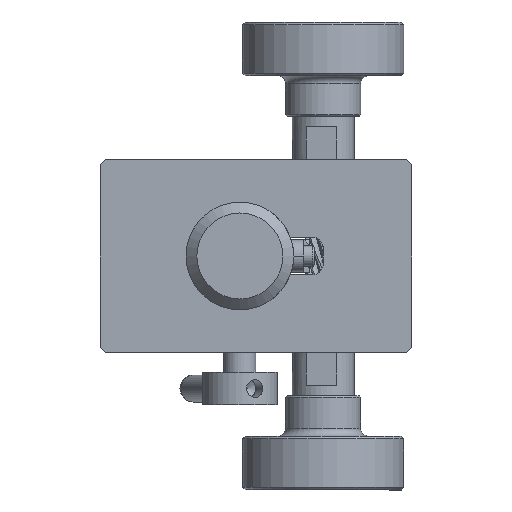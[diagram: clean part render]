
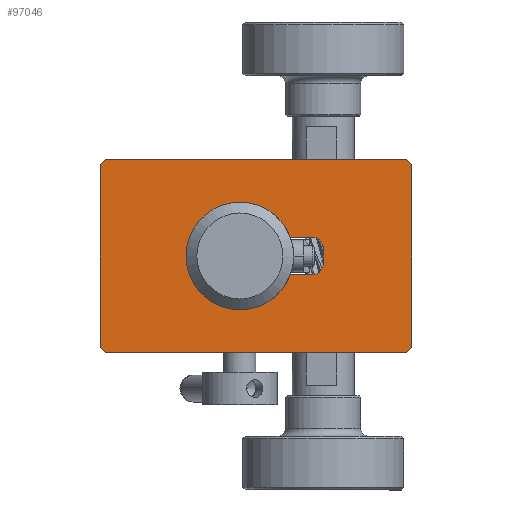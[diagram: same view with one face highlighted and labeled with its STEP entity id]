
A CAD part, front view. The second image highlights one B-rep face of the part: STEP entity #97046.
In plain terms, the highlighted planar face has unit normal (0, -1, 0).
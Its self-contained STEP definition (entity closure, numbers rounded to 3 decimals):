
#1165 = CARTESIAN_POINT ( 'NONE',  ( 54.374, -50.389, 72.208 ) ) ;
#1391 = VECTOR ( 'NONE', #61003, 1000. ) ;
#6753 = LINE ( 'NONE', #39344, #51885 ) ;
#6943 = DIRECTION ( 'NONE',  ( 0., 0., -1. ) ) ;
#7088 = LINE ( 'NONE', #88317, #69919 ) ;
#7470 = VECTOR ( 'NONE', #90891, 1000. ) ;
#9664 = CARTESIAN_POINT ( 'NONE',  ( -3.626, -50.389, 73.208 ) ) ;
#11389 = DIRECTION ( 'NONE',  ( 0.707, 0., 0.707 ) ) ;
#11449 = EDGE_CURVE ( 'NONE', #32431, #43803, #21779, .T. ) ;
#11707 = PLANE ( 'NONE',  #94996 ) ;
#11796 = VECTOR ( 'NONE', #68138, 1000. ) ;
#14272 = DIRECTION ( 'NONE',  ( 0., 1., 0. ) ) ;
#16321 = CARTESIAN_POINT ( 'NONE',  ( 31.742, -50.389, 86.708 ) ) ;
#20522 = VERTEX_POINT ( 'NONE', #33327 ) ;
#21502 = VERTEX_POINT ( 'NONE', #129762 ) ;
#21779 = CIRCLE ( 'NONE', #62187, 2. ) ;
#22747 = VECTOR ( 'NONE', #6943, 1000. ) ;
#23946 = ORIENTED_EDGE ( 'NONE', *, *, #68909, .T. ) ;
#25632 = CARTESIAN_POINT ( 'NONE',  ( 54.374, -50.389, 73.208 ) ) ;
#26992 = CARTESIAN_POINT ( 'NONE',  ( 31.742, -50.389, 93.708 ) ) ;
#28306 = EDGE_CURVE ( 'NONE', #124515, #128265, #87465, .T. ) ;
#28524 = CARTESIAN_POINT ( 'NONE',  ( 54.374, -50.389, 107.208 ) ) ;
#28710 = CARTESIAN_POINT ( 'NONE',  ( 53.374, -50.389, 72.208 ) ) ;
#31523 = ORIENTED_EDGE ( 'NONE', *, *, #122478, .T. ) ;
#32431 = VERTEX_POINT ( 'NONE', #47189 ) ;
#33327 = CARTESIAN_POINT ( 'NONE',  ( -3.626, -50.389, 107.208 ) ) ;
#33795 = ORIENTED_EDGE ( 'NONE', *, *, #112536, .T. ) ;
#34236 = CARTESIAN_POINT ( 'NONE',  ( 35.874, -50.389, 91.708 ) ) ;
#36623 = ORIENTED_EDGE ( 'NONE', *, *, #69958, .T. ) ;
#37705 = CIRCLE ( 'NONE', #112166, 2. ) ;
#37710 = DIRECTION ( 'NONE',  ( -1., 0., 0. ) ) ;
#38863 = ORIENTED_EDGE ( 'NONE', *, *, #131394, .T. ) ;
#39344 = CARTESIAN_POINT ( 'NONE',  ( 37.874, -50.389, 93.708 ) ) ;
#40039 = LINE ( 'NONE', #28710, #66641 ) ;
#41091 = LINE ( 'NONE', #1165, #74284 ) ;
#41493 = ORIENTED_EDGE ( 'NONE', *, *, #55055, .F. ) ;
#41842 = CARTESIAN_POINT ( 'NONE',  ( -3.626, -50.389, 73.208 ) ) ;
#42014 = CARTESIAN_POINT ( 'NONE',  ( 35.874, -50.389, 86.708 ) ) ;
#42148 = VERTEX_POINT ( 'NONE', #72012 ) ;
#42972 = CARTESIAN_POINT ( 'NONE',  ( 54.374, -50.389, 72.208 ) ) ;
#43168 = VECTOR ( 'NONE', #105381, 1000. ) ;
#43466 = LINE ( 'NONE', #85436, #43168 ) ;
#43592 = DIRECTION ( 'NONE',  ( -1., 0., 0. ) ) ;
#43803 = VERTEX_POINT ( 'NONE', #53145 ) ;
#46934 = EDGE_CURVE ( 'NONE', #58092, #90136, #37705, .T. ) ;
#47189 = CARTESIAN_POINT ( 'NONE',  ( 35.874, -50.389, 93.708 ) ) ;
#47383 = EDGE_LOOP ( 'NONE', ( #81314, #38863, #57906, #31523, #48592, #33795 ) ) ;
#48592 = ORIENTED_EDGE ( 'NONE', *, *, #46934, .T. ) ;
#50337 = CARTESIAN_POINT ( 'NONE',  ( -3.626, -50.389, 72.208 ) ) ;
#50501 = EDGE_LOOP ( 'NONE', ( #41493, #23946, #119974, #130371, #53887, #36623, #103707, #109166 ) ) ;
#51885 = VECTOR ( 'NONE', #97955, 1000. ) ;
#53145 = CARTESIAN_POINT ( 'NONE',  ( 37.874, -50.389, 91.708 ) ) ;
#53887 = ORIENTED_EDGE ( 'NONE', *, *, #113774, .F. ) ;
#53982 = VECTOR ( 'NONE', #117581, 1000. ) ;
#55055 = EDGE_CURVE ( 'NONE', #21502, #128265, #87878, .T. ) ;
#55596 = EDGE_CURVE ( 'NONE', #65593, #88061, #112948, .T. ) ;
#57472 = CARTESIAN_POINT ( 'NONE',  ( 54.374, -50.389, 107.208 ) ) ;
#57906 = ORIENTED_EDGE ( 'NONE', *, *, #11449, .T. ) ;
#58092 = VERTEX_POINT ( 'NONE', #114249 ) ;
#58982 = VERTEX_POINT ( 'NONE', #25632 ) ;
#61003 = DIRECTION ( 'NONE',  ( 0., 0., 1. ) ) ;
#62187 = AXIS2_PLACEMENT_3D ( 'NONE', #34236, #14272, #43592 ) ;
#62293 = FACE_BOUND ( 'NONE', #47383, .T. ) ;
#65593 = VERTEX_POINT ( 'NONE', #16321 ) ;
#66641 = VECTOR ( 'NONE', #11389, 1000. ) ;
#66965 = LINE ( 'NONE', #26992, #53982 ) ;
#68138 = DIRECTION ( 'NONE',  ( -0.707, 0., 0.707 ) ) ;
#68909 = EDGE_CURVE ( 'NONE', #21502, #20522, #43466, .T. ) ;
#68997 = CARTESIAN_POINT ( 'NONE',  ( 35.874, -50.389, 88.708 ) ) ;
#69884 = DIRECTION ( 'NONE',  ( 0., 1., 0. ) ) ;
#69919 = VECTOR ( 'NONE', #37710, 1000. ) ;
#69958 = EDGE_CURVE ( 'NONE', #81211, #58982, #40039, .T. ) ;
#70462 = VECTOR ( 'NONE', #130434, 1000. ) ;
#71665 = LINE ( 'NONE', #50337, #1391 ) ;
#72012 = CARTESIAN_POINT ( 'NONE',  ( -2.626, -50.389, 72.208 ) ) ;
#72506 = DIRECTION ( 'NONE',  ( -1., 0., 0. ) ) ;
#74284 = VECTOR ( 'NONE', #81747, 1000. ) ;
#75591 = DIRECTION ( 'NONE',  ( -1., 0., 0. ) ) ;
#79877 = CARTESIAN_POINT ( 'NONE',  ( 54.374, -50.389, 108.208 ) ) ;
#81039 = AXIS2_PLACEMENT_3D ( 'NONE', #81848, #69884, #72506 ) ;
#81211 = VERTEX_POINT ( 'NONE', #86439 ) ;
#81314 = ORIENTED_EDGE ( 'NONE', *, *, #55596, .T. ) ;
#81747 = DIRECTION ( 'NONE',  ( -1., 0., 0. ) ) ;
#81848 = CARTESIAN_POINT ( 'NONE',  ( 22.374, -50.389, 90.208 ) ) ;
#85230 = EDGE_CURVE ( 'NONE', #100181, #42148, #100886, .T. ) ;
#85436 = CARTESIAN_POINT ( 'NONE',  ( -2.626, -50.389, 108.208 ) ) ;
#86242 = DIRECTION ( 'NONE',  ( 0., 1., 0. ) ) ;
#86439 = CARTESIAN_POINT ( 'NONE',  ( 53.374, -50.389, 72.208 ) ) ;
#87465 = LINE ( 'NONE', #57472, #11796 ) ;
#87661 = DIRECTION ( 'NONE',  ( 0., 1., 0. ) ) ;
#87878 = LINE ( 'NONE', #79877, #70462 ) ;
#88061 = VERTEX_POINT ( 'NONE', #116998 ) ;
#88317 = CARTESIAN_POINT ( 'NONE',  ( 31.742, -50.389, 86.708 ) ) ;
#90136 = VERTEX_POINT ( 'NONE', #42014 ) ;
#90891 = DIRECTION ( 'NONE',  ( 0.707, 0., -0.707 ) ) ;
#94996 = AXIS2_PLACEMENT_3D ( 'NONE', #42972, #86242, #75591 ) ;
#96380 = EDGE_CURVE ( 'NONE', #100181, #20522, #71665, .T. ) ;
#97046 = ADVANCED_FACE ( 'NONE', ( #62293, #102931 ), #11707, .F. ) ;
#97931 = EDGE_CURVE ( 'NONE', #124515, #58982, #98148, .T. ) ;
#97955 = DIRECTION ( 'NONE',  ( 0., 0., -1. ) ) ;
#98148 = LINE ( 'NONE', #128763, #22747 ) ;
#100181 = VERTEX_POINT ( 'NONE', #41842 ) ;
#100886 = LINE ( 'NONE', #9664, #7470 ) ;
#101301 = CARTESIAN_POINT ( 'NONE',  ( 53.374, -50.389, 108.208 ) ) ;
#102931 = FACE_OUTER_BOUND ( 'NONE', #50501, .T. ) ;
#103707 = ORIENTED_EDGE ( 'NONE', *, *, #97931, .F. ) ;
#105381 = DIRECTION ( 'NONE',  ( -0.707, 0., -0.707 ) ) ;
#109166 = ORIENTED_EDGE ( 'NONE', *, *, #28306, .T. ) ;
#109600 = DIRECTION ( 'NONE',  ( -1., 0., 0. ) ) ;
#112166 = AXIS2_PLACEMENT_3D ( 'NONE', #68997, #87661, #109600 ) ;
#112536 = EDGE_CURVE ( 'NONE', #90136, #65593, #7088, .T. ) ;
#112948 = CIRCLE ( 'NONE', #81039, 10. ) ;
#113774 = EDGE_CURVE ( 'NONE', #81211, #42148, #41091, .T. ) ;
#114249 = CARTESIAN_POINT ( 'NONE',  ( 37.874, -50.389, 88.708 ) ) ;
#116998 = CARTESIAN_POINT ( 'NONE',  ( 31.742, -50.389, 93.708 ) ) ;
#117581 = DIRECTION ( 'NONE',  ( 1., 0., 0. ) ) ;
#119974 = ORIENTED_EDGE ( 'NONE', *, *, #96380, .F. ) ;
#122478 = EDGE_CURVE ( 'NONE', #43803, #58092, #6753, .T. ) ;
#124515 = VERTEX_POINT ( 'NONE', #28524 ) ;
#128265 = VERTEX_POINT ( 'NONE', #101301 ) ;
#128763 = CARTESIAN_POINT ( 'NONE',  ( 54.374, -50.389, 72.208 ) ) ;
#129762 = CARTESIAN_POINT ( 'NONE',  ( -2.626, -50.389, 108.208 ) ) ;
#130371 = ORIENTED_EDGE ( 'NONE', *, *, #85230, .T. ) ;
#130434 = DIRECTION ( 'NONE',  ( 1., 0., 0. ) ) ;
#131394 = EDGE_CURVE ( 'NONE', #88061, #32431, #66965, .T. ) ;
